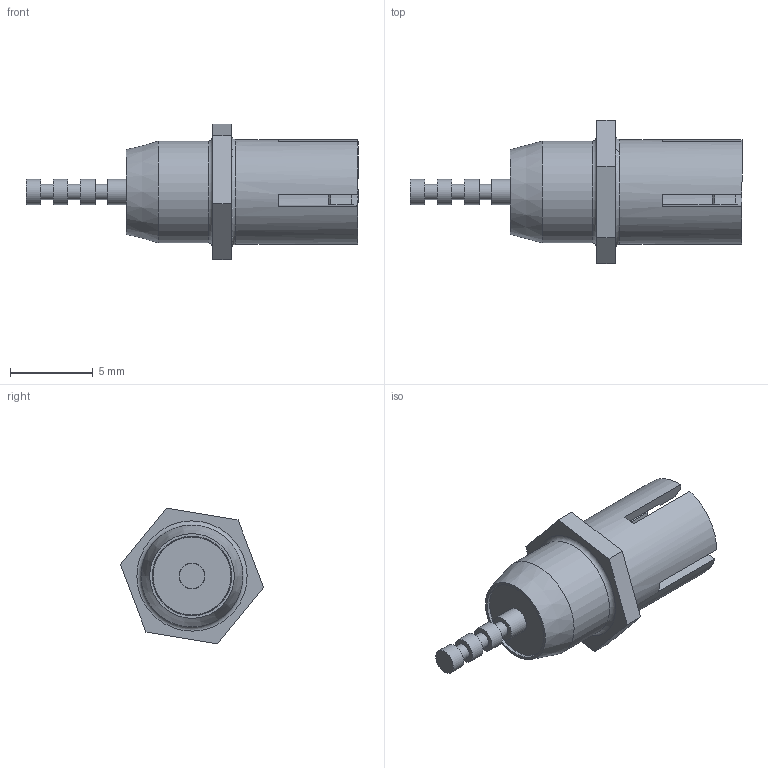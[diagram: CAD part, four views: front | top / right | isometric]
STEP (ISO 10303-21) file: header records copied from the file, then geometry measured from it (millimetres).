
FILE_DESCRIPTION(/* description */ (''),/* implementation_level */ '2;1');
FILE_NAME(/* name */ '\\ORBIT-DC2\dfs\BEHL_ENG4\Design_Data\Library\Symbols\Test Points\131-0258-00,TEST PROBE\131-0258-00.stp',/* time_stamp */ '2018-03-01T17:24:02-05:00',/* author */ ('belmonj'),/* organization */ (''),/* preprocessor_version */ 'ST-DEVELOPER v15.6',/* originating_system */ 'Autodesk Inventor 2015',/* authorisation */ '');
FILE_SCHEMA (('AUTOMOTIVE_DESIGN { 1 0 10303 214 3 1 1 }'));
Length unit declared in the file: inch
Products named in the file (1): 131-0258-00
Bounding box: 20.12 x 8.68 x 8.23 mm (x, y, z)
Volume: 285.4 mm3; surface area: 745.8 mm2
Topology: 1 solids, 1 shells, 76 faces, 167 edges, 110 vertices
Faces by surface type: plane 41, cylinder 22, cone 11, torus 2
Full cylindrical faces by diameter (mm): 0.921 x3, 1.524 x5, 1.575 x2, 2.794 x1, 3.81 x1, 4.724 x1, 4.775 x1, 4.826 x1, 5.08 x1, 6.172 x1, 6.35 x1
Entity records: 2028 total; most frequent: CARTESIAN_POINT 357, DIRECTION 346, ORIENTED_EDGE 282, AXIS2_PLACEMENT_3D 144, EDGE_CURVE 141, EDGE_LOOP 116, VERTEX_POINT 107, FACE_OUTER_BOUND 76
